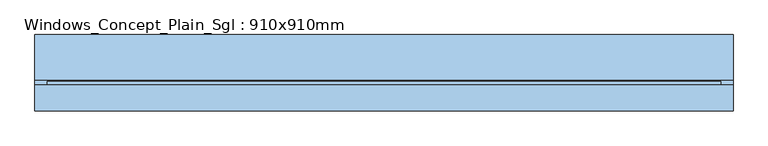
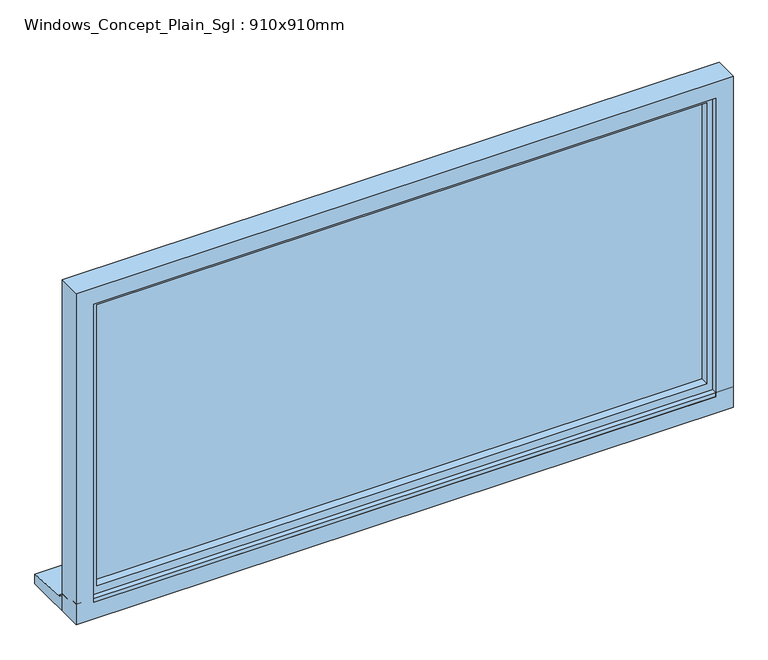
"""IFC4 building model written with IfcOpenShell, lengths in millimetres: window geometry, Windows_Concept_Plain_Sgl : 910x910mm."""

from ifc_helpers import new_model, si_unit, frame, origin, place, context, project, spatial, polyline, outline, extrude, faceted_brep, source, transform, mapped, element, save


def windows_concept_plain_sgl_910x910mm_1e5f782d(model_context):
    return source(origin(), model_context, "Body", "SolidModel", [
        extrude(outline(polyline([(1055.0, -2.5434322), (-1055.0, -2.5434322), (-1055.0, 21.4565678), (1055.0, 21.4565678), (1055.0, -2.5434322)])), frame((0.0, 0.0, 1003.0), z_axis=(0.0, 0.0, 1.0), x_axis=(1.0, 0.0, 0.0)), (0.0, 0.0, 1.0), 1037.0),
        faceted_brep([(-1085.0, -31.5434322, 2070.0), (-1085.0, 45.0035732, 2070.0), (-1085.0, 45.0035732, 973.0), (-1085.0, -31.5434322, 973.0), (-1045.0, -2.5434322, 2030.0), (-1045.0, -31.5434322, 2030.0), (-1045.0, -31.5434322, 1013.0), (-1045.0, -2.5434322, 1013.0), (-1055.0, 21.4565678, 2040.0), (-1055.0, -2.5434322, 2040.0), (-1055.0, -2.5434322, 1003.0), (-1055.0, 21.4565678, 1003.0), (-1045.0, 45.0035732, 2030.0), (-1045.0, 21.4565678, 2030.0), (-1045.0, 21.4565678, 1013.0), (-1045.0, 45.0035732, 1013.0), (1085.0, 45.0035732, 973.0), (1085.0, -31.5434322, 973.0), (1045.0, -31.5434322, 1013.0), (1045.0, -2.5434322, 1013.0), (1055.0, -2.5434322, 1003.0), (1055.0, 21.4565678, 1003.0), (1045.0, 21.4565678, 1013.0), (1045.0, 45.0035732, 1013.0), (1085.0, 45.0035732, 2070.0), (1085.0, -31.5434322, 2070.0), (1045.0, -31.5434322, 2030.0), (1045.0, -2.5434322, 2030.0), (1055.0, -2.5434322, 2040.0), (1055.0, 21.4565678, 2040.0), (1045.0, 21.4565678, 2030.0), (1045.0, 45.0035732, 2030.0)], [[[0, 1, 2, 3]], [[4, 5, 6, 7]], [[8, 9, 10, 11]], [[12, 13, 14, 15]], [[3, 2, 16, 17]], [[7, 6, 18, 19]], [[11, 10, 20, 21]], [[15, 14, 22, 23]], [[17, 16, 24, 25]], [[19, 18, 26, 27]], [[21, 20, 28, 29]], [[23, 22, 30, 31]], [[1, 24, 16, 2], [15, 23, 31, 12]], [[25, 24, 1, 0]], [[3, 17, 25, 0], [5, 26, 18, 6]], [[27, 26, 5, 4]], [[9, 28, 20, 10], [7, 19, 27, 4]], [[29, 28, 9, 8]], [[11, 21, 29, 8], [13, 30, 22, 14]], [[31, 30, 13, 12]]]),
        faceted_brep([(-1125.0, 33.4565678, 910.0), (-1125.0, -49.5434322, 910.0), (-1125.0, -49.5434322, 2110.0), (-1125.0, 33.4565678, 2110.0), (-1085.0, -31.5434322, 950.0), (-1085.0, 33.4565678, 950.0), (-1085.0, 33.4565678, 2070.0), (-1085.0, -31.5434322, 2070.0), (-1065.0, -49.5434322, 970.0), (-1065.0, -31.5434322, 970.0), (-1065.0, -31.5434322, 2050.0), (-1065.0, -49.5434322, 2050.0), (1125.0, -49.5434322, 2110.0), (1125.0, 33.4565678, 2110.0), (1085.0, 33.4565678, 2070.0), (1085.0, -31.5434322, 2070.0), (1065.0, -31.5434322, 2050.0), (1065.0, -49.5434322, 2050.0), (1125.0, -49.5434322, 910.0), (1125.0, 33.4565678, 910.0), (1085.0, 33.4565678, 950.0), (1085.0, -31.5434322, 950.0), (1065.0, -31.5434322, 970.0), (1065.0, -49.5434322, 970.0)], [[[0, 1, 2, 3]], [[4, 5, 6, 7]], [[8, 9, 10, 11]], [[3, 2, 12, 13]], [[7, 6, 14, 15]], [[11, 10, 16, 17]], [[13, 12, 18, 19]], [[15, 14, 20, 21]], [[17, 16, 22, 23]], [[1, 18, 12, 2], [11, 17, 23, 8]], [[19, 18, 1, 0]], [[3, 13, 19, 0], [5, 20, 14, 6]], [[21, 20, 5, 4]], [[7, 15, 21, 4], [9, 22, 16, 10]], [[23, 22, 9, 8]]]),
        extrude(outline(polyline([(-49.5434322, 985.0), (-31.5434322, 985.0), (-31.5434322, 973.0), (33.4565678, 973.0), (33.4565678, 961.0), (48.4565678, 959.68767), (48.4565678, 954.7449676), (195.9565678, 943.8088847), (195.9565678, 910.0), (-49.5434322, 910.0), (-49.5434322, 985.0)])), frame((-1125.0, 0.0, 0.0), z_axis=(1.0, 0.0, 0.0), x_axis=(0.0, 1.0, 0.0)), (0.0, 0.0, 1.0), 2250.0),
    ])


if __name__ == "__main__":
    model = new_model("IFC4")
    model_context = context("Model", 3, world=origin())
    ifc_project = project(units=[si_unit("LENGTHUNIT", "METRE", prefix="MILLI")], contexts=[model_context])
    site = spatial("IfcSite", under=ifc_project)
    building = spatial("IfcBuilding", under=site)
    placement = place(None, origin())
    windows_concept_plain_sgl_910x910mm_shape = windows_concept_plain_sgl_910x910mm_1e5f782d(model_context)
    element("IfcWindow", 1, ObjectType="Windows_Concept_Plain_Sgl : 910x910mm", at=placement, inside=building, context=model_context, shape_type="MappedRepresentation", body=[
        mapped(windows_concept_plain_sgl_910x910mm_shape, transform((0.0, 0.0, 0.0), x_axis=(1.0, 0.0, 0.0), y_axis=(0.0, 1.0, 0.0), z_axis=(0.0, 0.0, 1.0))),
    ])
    save(model, "model.ifc")
